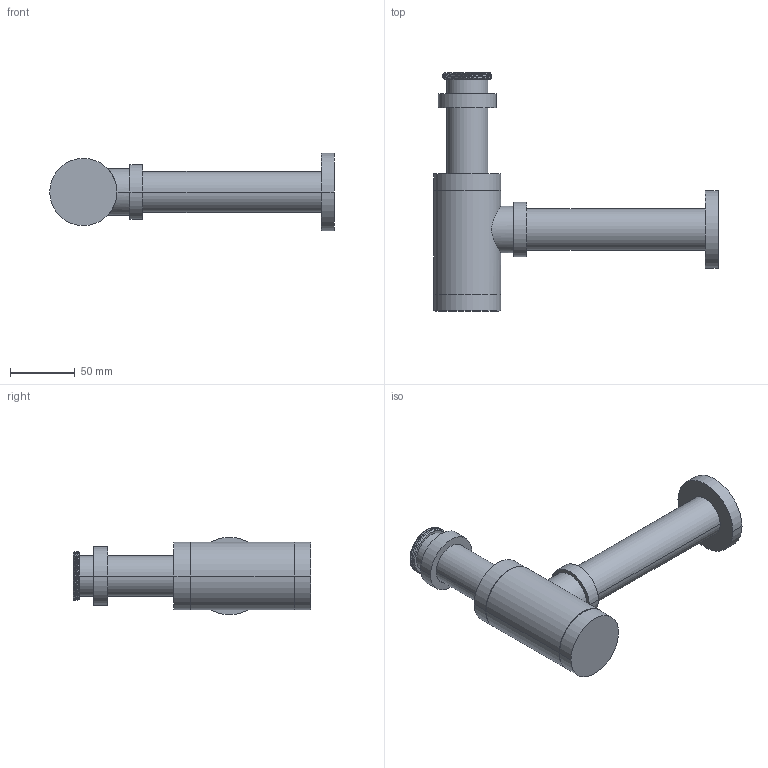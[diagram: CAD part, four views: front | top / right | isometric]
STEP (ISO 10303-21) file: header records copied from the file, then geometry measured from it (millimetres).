
FILE_DESCRIPTION((''),'2;1');
FILE_NAME('Z0327','2023-03-27T20:12:12',('Administrator'),(''),'CREO PARAMETRIC BY PTC INC, 2019010','CREO PARAMETRIC BY PTC INC, 2019010','');
FILE_SCHEMA(('CONFIG_CONTROL_DESIGN'));
Length unit declared in the file: millimetre
Products named in the file (1): Z0327
Bounding box: 220 x 184 x 60 mm (x, y, z)
Volume: 362392 mm3; surface area: 71500.7 mm2
Topology: 3 solids, 3 shells, 79 faces, 174 edges, 112 vertices
Faces by surface type: cylinder 45, plane 20, bspline 8, cone 6
Entity records: 3686 total; most frequent: CARTESIAN_POINT 1949, ORIENTED_EDGE 348, DIRECTION 336, EDGE_CURVE 174, AXIS2_PLACEMENT_3D 139, VERTEX_POINT 112, EDGE_LOOP 94, FACE_OUTER_BOUND 79
